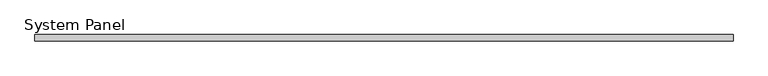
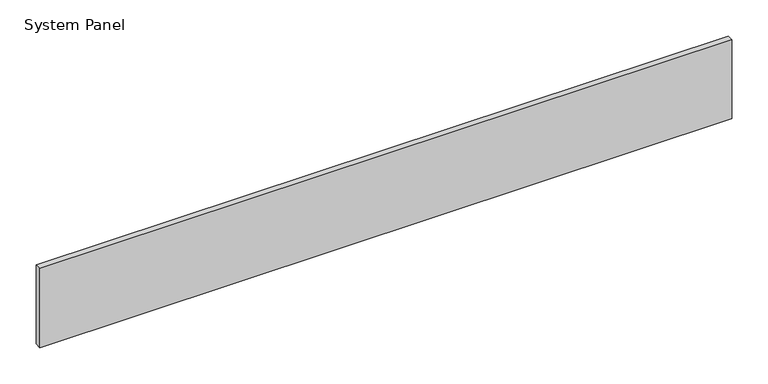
"""IFC4 building model written with IfcOpenShell, lengths in millimetres: plate geometry, System Panel : VACÍO."""

from ifc_helpers import new_model, si_unit, origin, origin_with_axes, place, context, project, spatial, polyline, outline, extrude, source, transform, mapped, element, save


def system_panel_974456c7(model_context):
    return source(origin(), model_context, "Body", "SweptSolid", [
        extrude(outline(polyline([(554.2609662, -5.0), (-554.2609662, -5.0), (-554.2609662, 5.0), (554.2609662, 5.0), (554.2609662, -5.0)])), origin_with_axes(), (0.0, 0.0, 1.0), 134.0338449),
    ])


if __name__ == "__main__":
    model = new_model("IFC4")
    model_context = context("Model", 3, world=origin())
    ifc_project = project(units=[si_unit("LENGTHUNIT", "METRE", prefix="MILLI")], contexts=[model_context])
    site = spatial("IfcSite", under=ifc_project)
    building = spatial("IfcBuilding", under=site)
    placement = place(None, origin())
    system_panel_shape = system_panel_974456c7(model_context)
    element("IfcPlate", 1, ObjectType="System Panel : VACÍO", at=placement, inside=building, context=model_context, shape_type="MappedRepresentation", body=[
        mapped(system_panel_shape, transform((0.0, 0.0, 0.0), x_axis=(1.0, 0.0, 0.0), y_axis=(0.0, 1.0, 0.0), z_axis=(0.0, 0.0, 1.0))),
    ])
    save(model, "model.ifc")
